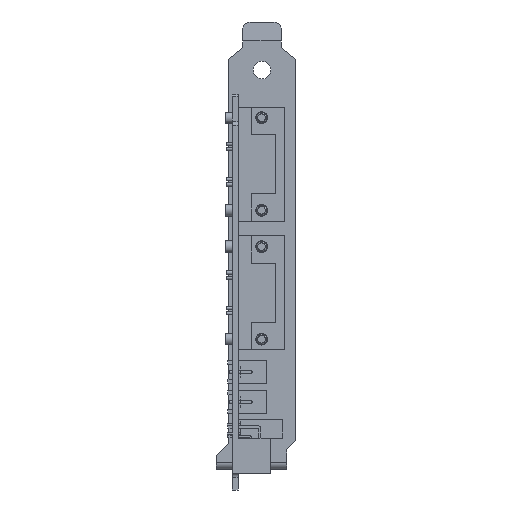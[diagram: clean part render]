
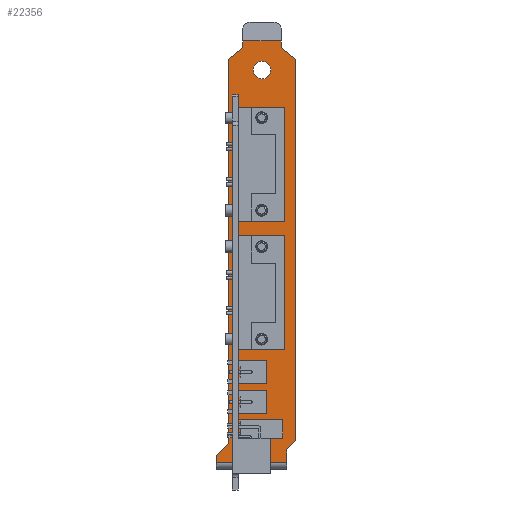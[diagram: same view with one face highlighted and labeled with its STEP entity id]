
A CAD part, front view. The second image highlights one B-rep face of the part: STEP entity #22356.
In plain terms, the highlighted planar face has unit normal (0, -1, 0).
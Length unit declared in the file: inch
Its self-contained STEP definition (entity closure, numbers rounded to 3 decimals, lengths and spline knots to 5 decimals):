
#1625=DIRECTION('',(1.,0.,0.));
#1626=VECTOR('',#1625,0.412);
#1627=CARTESIAN_POINT('',(0.108,0.33,0.764));
#1628=LINE('',#1627,#1626);
#1629=DIRECTION('',(0.,0.,-1.));
#1630=VECTOR('',#1629,0.074);
#1631=CARTESIAN_POINT('',(0.52,0.33,0.764));
#1632=LINE('',#1631,#1630);
#1633=DIRECTION('',(-0.788,0.,0.616));
#1634=VECTOR('',#1633,0.1967);
#1635=CARTESIAN_POINT('',(0.675,0.33,0.5689));
#1636=LINE('',#1635,#1634);
#1637=DIRECTION('',(0.707,0.,0.707));
#1638=VECTOR('',#1637,0.14142);
#1639=CARTESIAN_POINT('',(0.575,0.33,-3.583));
#1640=LINE('',#1639,#1638);
#1641=DIRECTION('',(0.,0.,1.));
#1642=VECTOR('',#1641,0.137);
#1643=CARTESIAN_POINT('',(0.575,0.33,-3.72));
#1644=LINE('',#1643,#1642);
#1645=DIRECTION('',(-1.,0.,0.));
#1646=VECTOR('',#1645,0.75);
#1647=CARTESIAN_POINT('',(0.575,0.33,-3.72));
#1648=LINE('',#1647,#1646);
#1649=DIRECTION('',(-0.707,0.,-0.707));
#1650=VECTOR('',#1649,0.18102);
#1651=CARTESIAN_POINT('',(-0.047,0.33,-3.514));
#1652=LINE('',#1651,#1650);
#1653=DIRECTION('',(0.,0.,-1.));
#1654=VECTOR('',#1653,4.0829);
#1655=CARTESIAN_POINT('',(-0.047,0.33,0.5689));
#1656=LINE('',#1655,#1654);
#1657=DIRECTION('',(-0.788,0.,-0.616));
#1658=VECTOR('',#1657,0.1967);
#1659=CARTESIAN_POINT('',(0.108,0.33,0.69));
#1660=LINE('',#1659,#1658);
#1661=DIRECTION('',(0.,0.,-1.));
#1662=VECTOR('',#1661,0.074);
#1663=CARTESIAN_POINT('',(0.108,0.33,0.764));
#1664=LINE('',#1663,#1662);
#1665=CARTESIAN_POINT('',(0.314,0.33,0.453));
#1666=DIRECTION('',(0.,1.,0.));
#1667=DIRECTION('',(0.,0.,1.));
#1668=AXIS2_PLACEMENT_3D('',#1665,#1666,#1667);
#1670=CARTESIAN_POINT('',(0.314,0.33,0.453));
#1671=DIRECTION('',(0.,1.,0.));
#1672=DIRECTION('',(0.,0.,-1.));
#1673=AXIS2_PLACEMENT_3D('',#1670,#1671,#1672);
#1675=DIRECTION('',(0.,0.,-1.));
#1676=VECTOR('',#1675,0.144);
#1677=CARTESIAN_POINT('',(0.112,0.33,-3.288));
#1678=LINE('',#1677,#1676);
#1679=DIRECTION('',(1.,0.,0.));
#1680=VECTOR('',#1679,0.4);
#1681=CARTESIAN_POINT('',(0.112,0.33,-3.432));
#1682=LINE('',#1681,#1680);
#1683=DIRECTION('',(0.,0.,1.));
#1684=VECTOR('',#1683,0.144);
#1685=CARTESIAN_POINT('',(0.512,0.33,-3.432));
#1686=LINE('',#1685,#1684);
#1687=DIRECTION('',(-1.,0.,0.));
#1688=VECTOR('',#1687,0.4);
#1689=CARTESIAN_POINT('',(0.512,0.33,-3.288));
#1690=LINE('',#1689,#1688);
#1691=DIRECTION('',(1.,0.,0.));
#1692=VECTOR('',#1691,0.494);
#1693=CARTESIAN_POINT('',(0.062,0.33,-1.15157));
#1694=LINE('',#1693,#1692);
#1695=DIRECTION('',(0.,0.,1.));
#1696=VECTOR('',#1695,1.213);
#1697=CARTESIAN_POINT('',(0.556,0.33,-1.15157));
#1698=LINE('',#1697,#1696);
#1699=DIRECTION('',(1.,0.,0.));
#1700=VECTOR('',#1699,0.494);
#1701=CARTESIAN_POINT('',(0.062,0.33,0.06143));
#1702=LINE('',#1701,#1700);
#1703=DIRECTION('',(0.,0.,1.));
#1704=VECTOR('',#1703,1.213);
#1705=CARTESIAN_POINT('',(0.062,0.33,-1.15157));
#1706=LINE('',#1705,#1704);
#1707=DIRECTION('',(1.,0.,0.));
#1708=VECTOR('',#1707,0.494);
#1709=CARTESIAN_POINT('',(0.062,0.33,-2.52143));
#1710=LINE('',#1709,#1708);
#1711=DIRECTION('',(0.,0.,1.));
#1712=VECTOR('',#1711,1.213);
#1713=CARTESIAN_POINT('',(0.556,0.33,-2.52143));
#1714=LINE('',#1713,#1712);
#1715=DIRECTION('',(1.,0.,0.));
#1716=VECTOR('',#1715,0.494);
#1717=CARTESIAN_POINT('',(0.062,0.33,-1.30843));
#1718=LINE('',#1717,#1716);
#1719=DIRECTION('',(0.,0.,1.));
#1720=VECTOR('',#1719,1.213);
#1721=CARTESIAN_POINT('',(0.062,0.33,-2.52143));
#1722=LINE('',#1721,#1720);
#1723=CARTESIAN_POINT('',(0.239,0.33,-2.75503));
#1724=DIRECTION('',(0.,-1.,0.));
#1725=DIRECTION('',(1.,0.,0.));
#1726=AXIS2_PLACEMENT_3D('',#1723,#1724,#1725);
#1728=CARTESIAN_POINT('',(0.239,0.33,-2.75503));
#1729=DIRECTION('',(0.,-1.,0.));
#1730=DIRECTION('',(-1.,0.,0.));
#1731=AXIS2_PLACEMENT_3D('',#1728,#1729,#1730);
#1733=CARTESIAN_POINT('',(0.239,0.33,-3.07503));
#1734=DIRECTION('',(0.,-1.,0.));
#1735=DIRECTION('',(1.,0.,0.));
#1736=AXIS2_PLACEMENT_3D('',#1733,#1734,#1735);
#1738=CARTESIAN_POINT('',(0.239,0.33,-3.07503));
#1739=DIRECTION('',(0.,-1.,0.));
#1740=DIRECTION('',(-1.,0.,0.));
#1741=AXIS2_PLACEMENT_3D('',#1738,#1739,#1740);
#1789=DIRECTION('',(0.,0.,1.));
#1790=VECTOR('',#1789,0.078);
#1791=CARTESIAN_POINT('',(-0.175,0.33,-3.72));
#1792=LINE('',#1791,#1790);
#2143=DIRECTION('',(0.,0.,1.));
#2144=VECTOR('',#2143,4.0519);
#2145=CARTESIAN_POINT('',(0.675,0.33,-3.483));
#2146=LINE('',#2145,#2144);
#19062=CARTESIAN_POINT('',(-0.175,0.33,-3.72));
#19064=VERTEX_POINT('',#19062);
#19065=CARTESIAN_POINT('',(0.575,0.33,-3.72));
#19067=VERTEX_POINT('',#19065);
#19069=CARTESIAN_POINT('',(0.575,0.33,-3.583));
#19070=VERTEX_POINT('',#19069);
#19071=CARTESIAN_POINT('',(0.675,0.33,-3.483));
#19072=VERTEX_POINT('',#19071);
#19073=CARTESIAN_POINT('',(0.108,0.33,0.69));
#19074=CARTESIAN_POINT('',(-0.047,0.33,0.5689));
#19075=VERTEX_POINT('',#19073);
#19076=VERTEX_POINT('',#19074);
#19077=CARTESIAN_POINT('',(-0.047,0.33,-3.514));
#19078=VERTEX_POINT('',#19077);
#19079=CARTESIAN_POINT('',(-0.175,0.33,-3.642));
#19080=VERTEX_POINT('',#19079);
#19081=CARTESIAN_POINT('',(0.675,0.33,0.5689));
#19082=CARTESIAN_POINT('',(0.52,0.33,0.69));
#19083=VERTEX_POINT('',#19081);
#19084=VERTEX_POINT('',#19082);
#19193=CARTESIAN_POINT('',(0.314,0.33,0.5465));
#19194=CARTESIAN_POINT('',(0.314,0.33,0.3595));
#19195=VERTEX_POINT('',#19193);
#19196=VERTEX_POINT('',#19194);
#19197=CARTESIAN_POINT('',(0.108,0.33,0.764));
#19198=VERTEX_POINT('',#19197);
#19199=CARTESIAN_POINT('',(0.52,0.33,0.764));
#19200=VERTEX_POINT('',#19199);
#19221=CARTESIAN_POINT('',(0.112,0.33,-3.288));
#19222=CARTESIAN_POINT('',(0.112,0.33,-3.432));
#19223=VERTEX_POINT('',#19221);
#19224=VERTEX_POINT('',#19222);
#19225=CARTESIAN_POINT('',(0.512,0.33,-3.432));
#19226=VERTEX_POINT('',#19225);
#19227=CARTESIAN_POINT('',(0.512,0.33,-3.288));
#19228=VERTEX_POINT('',#19227);
#19557=CARTESIAN_POINT('',(0.062,0.33,-1.15157));
#19558=CARTESIAN_POINT('',(0.556,0.33,-1.15157));
#19559=VERTEX_POINT('',#19557);
#19560=VERTEX_POINT('',#19558);
#19561=CARTESIAN_POINT('',(0.062,0.33,0.06143));
#19562=CARTESIAN_POINT('',(0.556,0.33,0.06143));
#19563=VERTEX_POINT('',#19561);
#19564=VERTEX_POINT('',#19562);
#19841=CARTESIAN_POINT('',(0.062,0.33,-2.52143));
#19842=CARTESIAN_POINT('',(0.556,0.33,-2.52143));
#19843=VERTEX_POINT('',#19841);
#19844=VERTEX_POINT('',#19842);
#19845=CARTESIAN_POINT('',(0.062,0.33,-1.30843));
#19846=CARTESIAN_POINT('',(0.556,0.33,-1.30843));
#19847=VERTEX_POINT('',#19845);
#19848=VERTEX_POINT('',#19846);
#20106=CARTESIAN_POINT('',(0.364,0.33,-2.75503));
#20107=CARTESIAN_POINT('',(0.114,0.33,-2.75503));
#20108=VERTEX_POINT('',#20106);
#20109=VERTEX_POINT('',#20107);
#20347=CARTESIAN_POINT('',(0.364,0.33,-3.07503));
#20348=CARTESIAN_POINT('',(0.114,0.33,-3.07503));
#20349=VERTEX_POINT('',#20347);
#20350=VERTEX_POINT('',#20348);
#22283=CARTESIAN_POINT('',(0.675,0.33,-3.72));
#22284=DIRECTION('',(0.,1.,0.));
#22285=DIRECTION('',(0.,0.,1.));
#22286=AXIS2_PLACEMENT_3D('',#22283,#22284,#22285);
#22287=PLANE('',#22286);
#22289=ORIENTED_EDGE('',*,*,#22288,.T.);
#22291=ORIENTED_EDGE('',*,*,#22290,.T.);
#22293=ORIENTED_EDGE('',*,*,#22292,.F.);
#22295=ORIENTED_EDGE('',*,*,#22294,.F.);
#22297=ORIENTED_EDGE('',*,*,#22296,.F.);
#22299=ORIENTED_EDGE('',*,*,#22298,.F.);
#22301=ORIENTED_EDGE('',*,*,#22300,.T.);
#22303=ORIENTED_EDGE('',*,*,#22302,.T.);
#22305=ORIENTED_EDGE('',*,*,#22304,.F.);
#22307=ORIENTED_EDGE('',*,*,#22306,.F.);
#22309=ORIENTED_EDGE('',*,*,#22308,.F.);
#22311=ORIENTED_EDGE('',*,*,#22310,.F.);
#22312=EDGE_LOOP('',(#22289,#22291,#22293,#22295,#22297,#22299,#22301,#22303,
#22305,#22307,#22309,#22311));
#22313=FACE_OUTER_BOUND('',#22312,.F.);
#22315=ORIENTED_EDGE('',*,*,#22314,.F.);
#22317=ORIENTED_EDGE('',*,*,#22316,.F.);
#22318=EDGE_LOOP('',(#22315,#22317));
#22319=FACE_BOUND('',#22318,.F.);
#22321=ORIENTED_EDGE('',*,*,#22320,.T.);
#22323=ORIENTED_EDGE('',*,*,#22322,.T.);
#22325=ORIENTED_EDGE('',*,*,#22324,.T.);
#22327=ORIENTED_EDGE('',*,*,#22326,.T.);
#22328=EDGE_LOOP('',(#22321,#22323,#22325,#22327));
#22329=FACE_BOUND('',#22328,.F.);
#22330=ORIENTED_EDGE('',*,*,#22236,.T.);
#22332=ORIENTED_EDGE('',*,*,#22331,.T.);
#22333=ORIENTED_EDGE('',*,*,#22271,.F.);
#22334=ORIENTED_EDGE('',*,*,#22215,.F.);
#22335=EDGE_LOOP('',(#22330,#22332,#22333,#22334));
#22336=FACE_BOUND('',#22335,.F.);
#22337=ORIENTED_EDGE('',*,*,#22124,.T.);
#22339=ORIENTED_EDGE('',*,*,#22338,.T.);
#22340=ORIENTED_EDGE('',*,*,#22161,.F.);
#22341=ORIENTED_EDGE('',*,*,#22181,.F.);
#22342=EDGE_LOOP('',(#22337,#22339,#22340,#22341));
#22343=FACE_BOUND('',#22342,.F.);
#22345=ORIENTED_EDGE('',*,*,#22344,.T.);
#22347=ORIENTED_EDGE('',*,*,#22346,.T.);
#22348=EDGE_LOOP('',(#22345,#22347));
#22349=FACE_BOUND('',#22348,.F.);
#22351=ORIENTED_EDGE('',*,*,#22350,.T.);
#22353=ORIENTED_EDGE('',*,*,#22352,.T.);
#22354=EDGE_LOOP('',(#22351,#22353));
#22355=FACE_BOUND('',#22354,.F.);
#22356=ADVANCED_FACE('',(#22313,#22319,#22329,#22336,#22343,#22349,#22355),
#22287,.F.);
#1669=CIRCLE('',#1668,0.0935);
#1674=CIRCLE('',#1673,0.0935);
#1727=CIRCLE('',#1726,0.125);
#1732=CIRCLE('',#1731,0.125);
#1737=CIRCLE('',#1736,0.125);
#1742=CIRCLE('',#1741,0.125);
#22124=EDGE_CURVE('',#19843,#19844,#1710,.T.);
#22161=EDGE_CURVE('',#19847,#19848,#1718,.T.);
#22181=EDGE_CURVE('',#19843,#19847,#1722,.T.);
#22215=EDGE_CURVE('',#19559,#19563,#1706,.T.);
#22236=EDGE_CURVE('',#19559,#19560,#1694,.T.);
#22271=EDGE_CURVE('',#19563,#19564,#1702,.T.);
#22288=EDGE_CURVE('',#19198,#19200,#1628,.T.);
#22290=EDGE_CURVE('',#19200,#19084,#1632,.T.);
#22292=EDGE_CURVE('',#19083,#19084,#1636,.T.);
#22294=EDGE_CURVE('',#19072,#19083,#2146,.T.);
#22296=EDGE_CURVE('',#19070,#19072,#1640,.T.);
#22298=EDGE_CURVE('',#19067,#19070,#1644,.T.);
#22300=EDGE_CURVE('',#19067,#19064,#1648,.T.);
#22302=EDGE_CURVE('',#19064,#19080,#1792,.T.);
#22304=EDGE_CURVE('',#19078,#19080,#1652,.T.);
#22306=EDGE_CURVE('',#19076,#19078,#1656,.T.);
#22308=EDGE_CURVE('',#19075,#19076,#1660,.T.);
#22310=EDGE_CURVE('',#19198,#19075,#1664,.T.);
#22314=EDGE_CURVE('',#19195,#19196,#1669,.T.);
#22316=EDGE_CURVE('',#19196,#19195,#1674,.T.);
#22320=EDGE_CURVE('',#19223,#19224,#1678,.T.);
#22322=EDGE_CURVE('',#19224,#19226,#1682,.T.);
#22324=EDGE_CURVE('',#19226,#19228,#1686,.T.);
#22326=EDGE_CURVE('',#19228,#19223,#1690,.T.);
#22331=EDGE_CURVE('',#19560,#19564,#1698,.T.);
#22338=EDGE_CURVE('',#19844,#19848,#1714,.T.);
#22344=EDGE_CURVE('',#20108,#20109,#1727,.T.);
#22346=EDGE_CURVE('',#20109,#20108,#1732,.T.);
#22350=EDGE_CURVE('',#20349,#20350,#1737,.T.);
#22352=EDGE_CURVE('',#20350,#20349,#1742,.T.);
